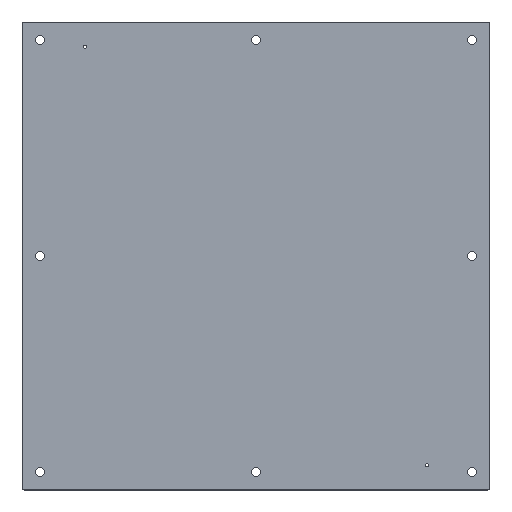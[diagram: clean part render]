
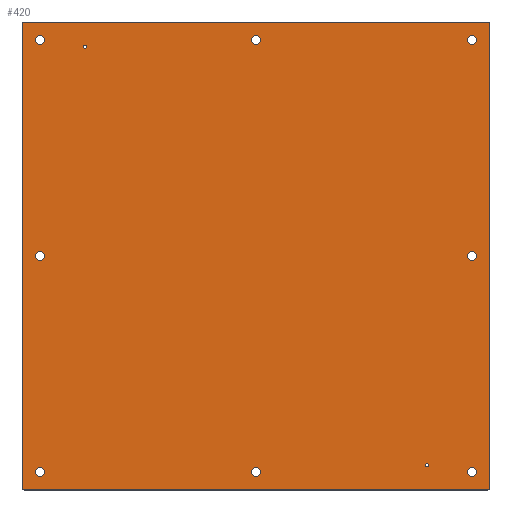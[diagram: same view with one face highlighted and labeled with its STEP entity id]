
A CAD part, top view. The second image highlights one B-rep face of the part: STEP entity #420.
In plain terms, the highlighted planar face has unit normal (0, 0, 1).
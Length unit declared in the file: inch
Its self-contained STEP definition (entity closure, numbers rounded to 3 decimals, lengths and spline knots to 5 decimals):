
#33=FACE_BOUND('',#99,.T.);
#34=FACE_BOUND('',#100,.T.);
#35=FACE_BOUND('',#101,.T.);
#36=FACE_BOUND('',#102,.T.);
#37=FACE_BOUND('',#103,.T.);
#38=FACE_BOUND('',#104,.T.);
#39=FACE_BOUND('',#105,.T.);
#40=FACE_BOUND('',#106,.T.);
#41=FACE_BOUND('',#107,.T.);
#42=FACE_BOUND('',#108,.T.);
#48=PLANE('',#530);
#68=FACE_OUTER_BOUND('',#98,.T.);
#98=EDGE_LOOP('',(#369,#370,#371,#372,#373,#374,#375,#376));
#99=EDGE_LOOP('',(#377));
#100=EDGE_LOOP('',(#378));
#101=EDGE_LOOP('',(#379));
#102=EDGE_LOOP('',(#380));
#103=EDGE_LOOP('',(#381));
#104=EDGE_LOOP('',(#382));
#105=EDGE_LOOP('',(#383));
#106=EDGE_LOOP('',(#384));
#107=EDGE_LOOP('',(#385));
#108=EDGE_LOOP('',(#386));
#113=LINE('',#682,#139);
#119=LINE('',#722,#145);
#122=LINE('',#730,#148);
#134=LINE('',#776,#160);
#139=VECTOR('',#550,0.3937);
#145=VECTOR('',#590,0.3937);
#148=VECTOR('',#599,0.3937);
#160=VECTOR('',#657,0.3937);
#161=CIRCLE('',#484,0.125);
#176=CIRCLE('',#502,0.125);
#177=CIRCLE('',#505,0.125);
#178=CIRCLE('',#508,0.125);
#179=CIRCLE('',#510,0.0885);
#180=CIRCLE('',#512,0.0885);
#181=CIRCLE('',#514,0.25);
#182=CIRCLE('',#516,0.25);
#183=CIRCLE('',#518,0.25);
#184=CIRCLE('',#520,0.25);
#185=CIRCLE('',#522,0.25);
#186=CIRCLE('',#524,0.25);
#187=CIRCLE('',#526,0.25);
#188=CIRCLE('',#528,0.25);
#189=VERTEX_POINT('',#669);
#190=VERTEX_POINT('',#670);
#194=VERTEX_POINT('',#680);
#210=VERTEX_POINT('',#716);
#211=VERTEX_POINT('',#720);
#212=VERTEX_POINT('',#724);
#213=VERTEX_POINT('',#728);
#214=VERTEX_POINT('',#732);
#215=VERTEX_POINT('',#736);
#216=VERTEX_POINT('',#740);
#217=VERTEX_POINT('',#744);
#218=VERTEX_POINT('',#748);
#219=VERTEX_POINT('',#752);
#220=VERTEX_POINT('',#756);
#221=VERTEX_POINT('',#760);
#222=VERTEX_POINT('',#764);
#223=VERTEX_POINT('',#768);
#224=VERTEX_POINT('',#772);
#225=EDGE_CURVE('',#189,#190,#161,.T.);
#231=EDGE_CURVE('',#194,#189,#113,.T.);
#248=EDGE_CURVE('',#210,#194,#176,.T.);
#251=EDGE_CURVE('',#211,#210,#119,.T.);
#252=EDGE_CURVE('',#212,#211,#177,.T.);
#255=EDGE_CURVE('',#213,#212,#122,.T.);
#256=EDGE_CURVE('',#214,#213,#178,.T.);
#259=EDGE_CURVE('',#215,#215,#179,.T.);
#261=EDGE_CURVE('',#216,#216,#180,.T.);
#263=EDGE_CURVE('',#217,#217,#181,.T.);
#265=EDGE_CURVE('',#218,#218,#182,.T.);
#267=EDGE_CURVE('',#219,#219,#183,.T.);
#269=EDGE_CURVE('',#220,#220,#184,.T.);
#271=EDGE_CURVE('',#221,#221,#185,.T.);
#273=EDGE_CURVE('',#222,#222,#186,.T.);
#275=EDGE_CURVE('',#223,#223,#187,.T.);
#277=EDGE_CURVE('',#224,#224,#188,.T.);
#278=EDGE_CURVE('',#190,#214,#134,.T.);
#369=ORIENTED_EDGE('',*,*,#225,.F.);
#370=ORIENTED_EDGE('',*,*,#231,.F.);
#371=ORIENTED_EDGE('',*,*,#248,.F.);
#372=ORIENTED_EDGE('',*,*,#251,.F.);
#373=ORIENTED_EDGE('',*,*,#252,.F.);
#374=ORIENTED_EDGE('',*,*,#255,.F.);
#375=ORIENTED_EDGE('',*,*,#256,.F.);
#376=ORIENTED_EDGE('',*,*,#278,.F.);
#377=ORIENTED_EDGE('',*,*,#259,.T.);
#378=ORIENTED_EDGE('',*,*,#261,.T.);
#379=ORIENTED_EDGE('',*,*,#263,.T.);
#380=ORIENTED_EDGE('',*,*,#265,.T.);
#381=ORIENTED_EDGE('',*,*,#267,.T.);
#382=ORIENTED_EDGE('',*,*,#269,.T.);
#383=ORIENTED_EDGE('',*,*,#271,.T.);
#384=ORIENTED_EDGE('',*,*,#273,.T.);
#385=ORIENTED_EDGE('',*,*,#275,.T.);
#386=ORIENTED_EDGE('',*,*,#277,.T.);
#420=ADVANCED_FACE('',(#68,#33,#34,#35,#36,#37,#38,#39,#40,#41,#42),#48,
 .T.);
#484=AXIS2_PLACEMENT_3D('',#671,#540,#541);
#502=AXIS2_PLACEMENT_3D('',#717,#584,#585);
#505=AXIS2_PLACEMENT_3D('',#725,#593,#594);
#508=AXIS2_PLACEMENT_3D('',#733,#602,#603);
#510=AXIS2_PLACEMENT_3D('',#738,#608,#609);
#512=AXIS2_PLACEMENT_3D('',#742,#613,#614);
#514=AXIS2_PLACEMENT_3D('',#746,#618,#619);
#516=AXIS2_PLACEMENT_3D('',#750,#623,#624);
#518=AXIS2_PLACEMENT_3D('',#754,#628,#629);
#520=AXIS2_PLACEMENT_3D('',#758,#633,#634);
#522=AXIS2_PLACEMENT_3D('',#762,#638,#639);
#524=AXIS2_PLACEMENT_3D('',#766,#643,#644);
#526=AXIS2_PLACEMENT_3D('',#770,#648,#649);
#528=AXIS2_PLACEMENT_3D('',#774,#653,#654);
#530=AXIS2_PLACEMENT_3D('',#777,#658,#659);
#540=DIRECTION('center_axis',(0.,0.,-1.));
#541=DIRECTION('ref_axis',(-0.707,-0.707,0.));
#550=DIRECTION('',(-1.,0.,0.));
#584=DIRECTION('center_axis',(0.,0.,-1.));
#585=DIRECTION('ref_axis',(0.707,-0.707,0.));
#590=DIRECTION('',(0.,-1.,0.));
#593=DIRECTION('center_axis',(0.,0.,-1.));
#594=DIRECTION('ref_axis',(0.707,0.707,0.));
#599=DIRECTION('',(1.,0.,0.));
#602=DIRECTION('center_axis',(0.,0.,-1.));
#603=DIRECTION('ref_axis',(-0.707,0.707,0.));
#608=DIRECTION('center_axis',(0.,0.,-1.));
#609=DIRECTION('ref_axis',(-1.,0.,0.));
#613=DIRECTION('center_axis',(0.,0.,-1.));
#614=DIRECTION('ref_axis',(-1.,0.,0.));
#618=DIRECTION('center_axis',(0.,0.,-1.));
#619=DIRECTION('ref_axis',(-1.,0.,0.));
#623=DIRECTION('center_axis',(0.,0.,-1.));
#624=DIRECTION('ref_axis',(-1.,0.,0.));
#628=DIRECTION('center_axis',(0.,0.,-1.));
#629=DIRECTION('ref_axis',(-1.,0.,0.));
#633=DIRECTION('center_axis',(0.,0.,-1.));
#634=DIRECTION('ref_axis',(-1.,0.,0.));
#638=DIRECTION('center_axis',(0.,0.,-1.));
#639=DIRECTION('ref_axis',(-1.,0.,0.));
#643=DIRECTION('center_axis',(0.,0.,-1.));
#644=DIRECTION('ref_axis',(-1.,0.,0.));
#648=DIRECTION('center_axis',(0.,0.,-1.));
#649=DIRECTION('ref_axis',(-1.,0.,0.));
#653=DIRECTION('center_axis',(0.,0.,-1.));
#654=DIRECTION('ref_axis',(-1.,0.,0.));
#657=DIRECTION('',(0.,1.,0.));
#658=DIRECTION('center_axis',(0.,0.,1.));
#659=DIRECTION('ref_axis',(1.,0.,0.));
#669=CARTESIAN_POINT('',(-12.875,-13.,0.068));
#670=CARTESIAN_POINT('',(-13.,-12.875,0.068));
#671=CARTESIAN_POINT('Origin',(-12.875,-12.875,0.068));
#680=CARTESIAN_POINT('',(12.875,-13.,0.068));
#682=CARTESIAN_POINT('',(13.,-13.,0.068));
#716=CARTESIAN_POINT('',(13.,-12.875,0.068));
#717=CARTESIAN_POINT('Origin',(12.875,-12.875,0.068));
#720=CARTESIAN_POINT('',(13.,12.875,0.068));
#722=CARTESIAN_POINT('',(13.,13.,0.068));
#724=CARTESIAN_POINT('',(12.875,13.,0.068));
#725=CARTESIAN_POINT('Origin',(12.875,12.875,0.068));
#728=CARTESIAN_POINT('',(-12.875,13.,0.068));
#730=CARTESIAN_POINT('',(-13.,13.,0.068));
#732=CARTESIAN_POINT('',(-13.,12.875,0.068));
#733=CARTESIAN_POINT('Origin',(-12.875,12.875,0.068));
#736=CARTESIAN_POINT('',(-9.4115,11.625,0.068));
#738=CARTESIAN_POINT('Origin',(-9.5,11.625,0.068));
#740=CARTESIAN_POINT('',(9.5885,-11.625,0.068));
#742=CARTESIAN_POINT('Origin',(9.5,-11.625,0.068));
#744=CARTESIAN_POINT('',(12.25,0.,0.068));
#746=CARTESIAN_POINT('Origin',(12.,0.,0.068));
#748=CARTESIAN_POINT('',(-11.75,0.,0.068));
#750=CARTESIAN_POINT('Origin',(-12.,0.,0.068));
#752=CARTESIAN_POINT('',(0.25,-12.,0.068));
#754=CARTESIAN_POINT('Origin',(0.,-12.,0.068));
#756=CARTESIAN_POINT('',(0.25,12.,0.068));
#758=CARTESIAN_POINT('Origin',(0.,12.,0.068));
#760=CARTESIAN_POINT('',(-11.75,-12.,0.068));
#762=CARTESIAN_POINT('Origin',(-12.,-12.,0.068));
#764=CARTESIAN_POINT('',(12.25,-12.,0.068));
#766=CARTESIAN_POINT('Origin',(12.,-12.,0.068));
#768=CARTESIAN_POINT('',(12.25,12.,0.068));
#770=CARTESIAN_POINT('Origin',(12.,12.,0.068));
#772=CARTESIAN_POINT('',(-11.75,12.,0.068));
#774=CARTESIAN_POINT('Origin',(-12.,12.,0.068));
#776=CARTESIAN_POINT('',(-13.,-13.,0.068));
#777=CARTESIAN_POINT('Origin',(0.,0.,0.068));
